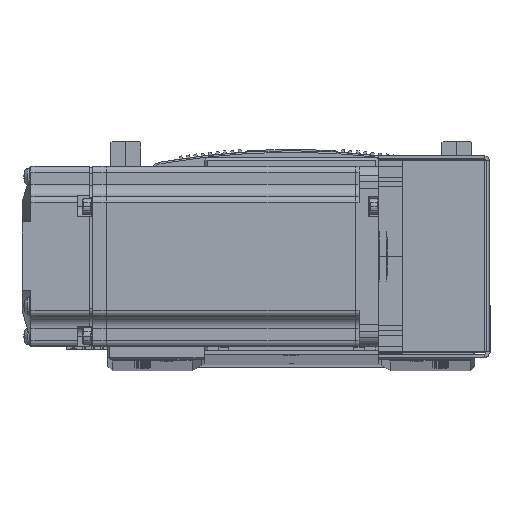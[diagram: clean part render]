
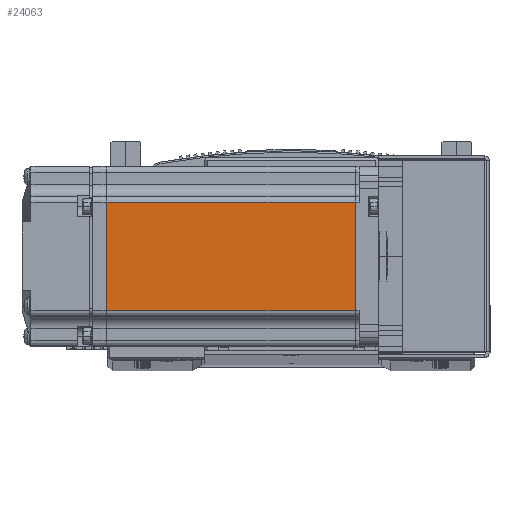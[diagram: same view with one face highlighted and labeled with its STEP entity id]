
A CAD part, top view. The second image highlights one B-rep face of the part: STEP entity #24063.
In plain terms, the highlighted planar face has unit normal (0, 0, 1) as drawn and (0, 1, 0) by its records, which use the part's own axes.
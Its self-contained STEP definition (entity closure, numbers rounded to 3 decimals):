
#2879 = EDGE_LOOP ( 'NONE', ( #62732, #62885, #62842, #62962 ) ) ;
#9864 = VERTEX_POINT ( 'NONE', #94452 ) ;
#9876 = VERTEX_POINT ( 'NONE', #94423 ) ;
#10008 = VERTEX_POINT ( 'NONE', #94470 ) ;
#10031 = VERTEX_POINT ( 'NONE', #94563 ) ;
#20479 = LINE ( 'NONE', #34974, #20535 ) ;
#20535 = VECTOR ( 'NONE', #34978, 1000. ) ;
#20788 = VECTOR ( 'NONE', #35164, 1000. ) ;
#20804 = LINE ( 'NONE', #35160, #20788 ) ;
#20812 = LINE ( 'NONE', #35165, #20825 ) ;
#20825 = VECTOR ( 'NONE', #35169, 1000. ) ;
#20883 = VECTOR ( 'NONE', #35996, 1000. ) ;
#20905 = LINE ( 'NONE', #35957, #20883 ) ;
#24063 = ADVANCED_FACE ( 'NONE', ( #36213 ), #57956, .T. ) ;
#34974 = CARTESIAN_POINT ( 'NONE',  ( -6.5, 30., 18. ) ) ;
#34978 = DIRECTION ( 'NONE',  ( 1., 0., 0. ) ) ;
#35160 = CARTESIAN_POINT ( 'NONE',  ( -90.45, 30., 0. ) ) ;
#35164 = DIRECTION ( 'NONE',  ( 0., 0., 1. ) ) ;
#35165 = CARTESIAN_POINT ( 'NONE',  ( -6.5, 30., -18. ) ) ;
#35169 = DIRECTION ( 'NONE',  ( -1., 0., 0. ) ) ;
#35957 = CARTESIAN_POINT ( 'NONE',  ( -7.75, 30., 0. ) ) ;
#35996 = DIRECTION ( 'NONE',  ( 0., 0., 1. ) ) ;
#36213 = FACE_OUTER_BOUND ( 'NONE', #2879, .T. ) ;
#57956 = PLANE ( 'NONE',  #70060 ) ;
#57958 = CARTESIAN_POINT ( 'NONE',  ( -6.5, 30., 25. ) ) ;
#57959 = DIRECTION ( 'NONE',  ( 0., 1., 0. ) ) ;
#57960 = DIRECTION ( 'NONE',  ( 0., 0., 1. ) ) ;
#62732 = ORIENTED_EDGE ( 'NONE', *, *, #72146, .F. ) ;
#62842 = ORIENTED_EDGE ( 'NONE', *, *, #72011, .T. ) ;
#62885 = ORIENTED_EDGE ( 'NONE', *, *, #72014, .T. ) ;
#62962 = ORIENTED_EDGE ( 'NONE', *, *, #71888, .T. ) ;
#70060 = AXIS2_PLACEMENT_3D ( 'NONE', #57958, #57959, #57960 ) ;
#71888 = EDGE_CURVE ( 'NONE', #9864, #9876, #20479, .T. ) ;
#72011 = EDGE_CURVE ( 'NONE', #10031, #9864, #20804, .T. ) ;
#72014 = EDGE_CURVE ( 'NONE', #10008, #10031, #20812, .T. ) ;
#72146 = EDGE_CURVE ( 'NONE', #10008, #9876, #20905, .T. ) ;
#94423 = CARTESIAN_POINT ( 'NONE',  ( -7.75, 30., 18. ) ) ;
#94452 = CARTESIAN_POINT ( 'NONE',  ( -90.45, 30., 18. ) ) ;
#94470 = CARTESIAN_POINT ( 'NONE',  ( -7.75, 30., -18. ) ) ;
#94563 = CARTESIAN_POINT ( 'NONE',  ( -90.45, 30., -18. ) ) ;
